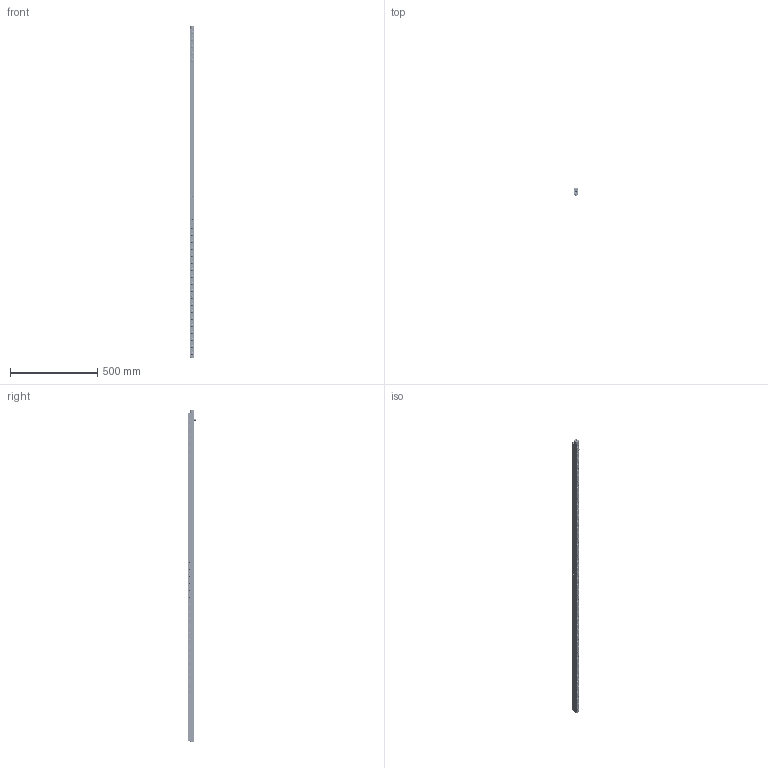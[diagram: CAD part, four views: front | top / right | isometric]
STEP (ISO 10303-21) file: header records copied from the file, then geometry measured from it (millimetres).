
FILE_DESCRIPTION(/* description */ ('EHR22-47'),/* implementation_level */ '2;1');
FILE_NAME(/* name */ 'S:\EASCN Vault\Designs\Standard Part\DIE LIFTERS\EHR\EHR- 3D step\EHR22 - 3D step complete serie\EHR22-47.stp',/* time_stamp */ '2019-10-29T13:25:43+08:00',/* author */ ('yue.yang'),/* organization */ (''),/* preprocessor_version */ 'ST-DEVELOPER v17',/* originating_system */ 'Autodesk Inventor 2019',/* authorisation */ '');
FILE_SCHEMA (('AUTOMOTIVE_DESIGN { 1 0 10303 214 3 1 1 }'));
Products named in the file (2): EHR22-47; EHR22-47_Substitute_1
Assembly tree (1 placements, depth 2):
  EHR22-47
    EHR22-47_Substitute_1
Bounding box: 21.8 x 48.05 x 1902 mm (x, y, z)
Volume: 1169221.4 mm3; surface area: 476326.7 mm2
Topology: 159 solids, 159 shells, 2549 faces, 7181 edges, 4991 vertices
Faces by surface type: cylinder 888, plane 594, cone 540, torus 431, sphere 96
Full cylindrical faces by diameter (mm): 2.459 x16, 3 x9, 3.2 x8, 4 x20, 5 x141, 6 x57, 7.5 x2, 8.566 x1, 10 x11, 11 x47, 12.5 x94, 13.4 x47, 13.8 x47, 15.95 x94, 16 x94
Entity records: 93307 total; most frequent: CARTESIAN_POINT 20866, DIRECTION 16212, ORIENTED_EDGE 14216, AXIS2_PLACEMENT_3D 7239, EDGE_CURVE 7108, VERTEX_POINT 4991, CIRCLE 4687, EDGE_LOOP 3007
